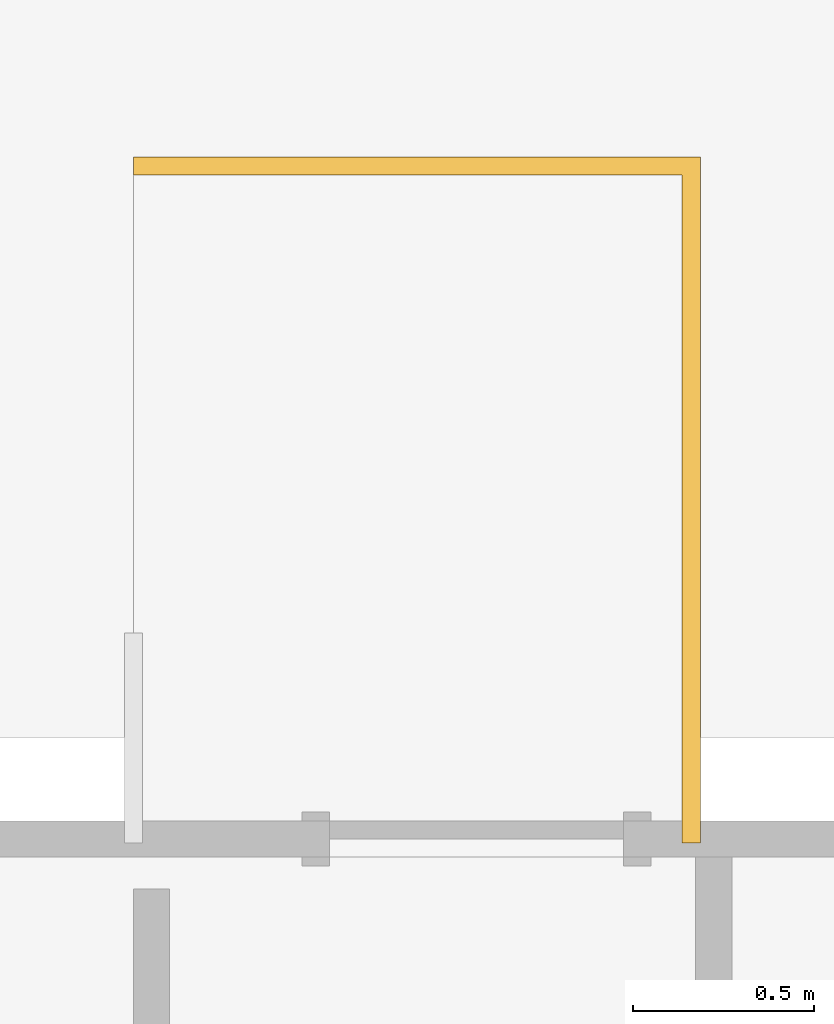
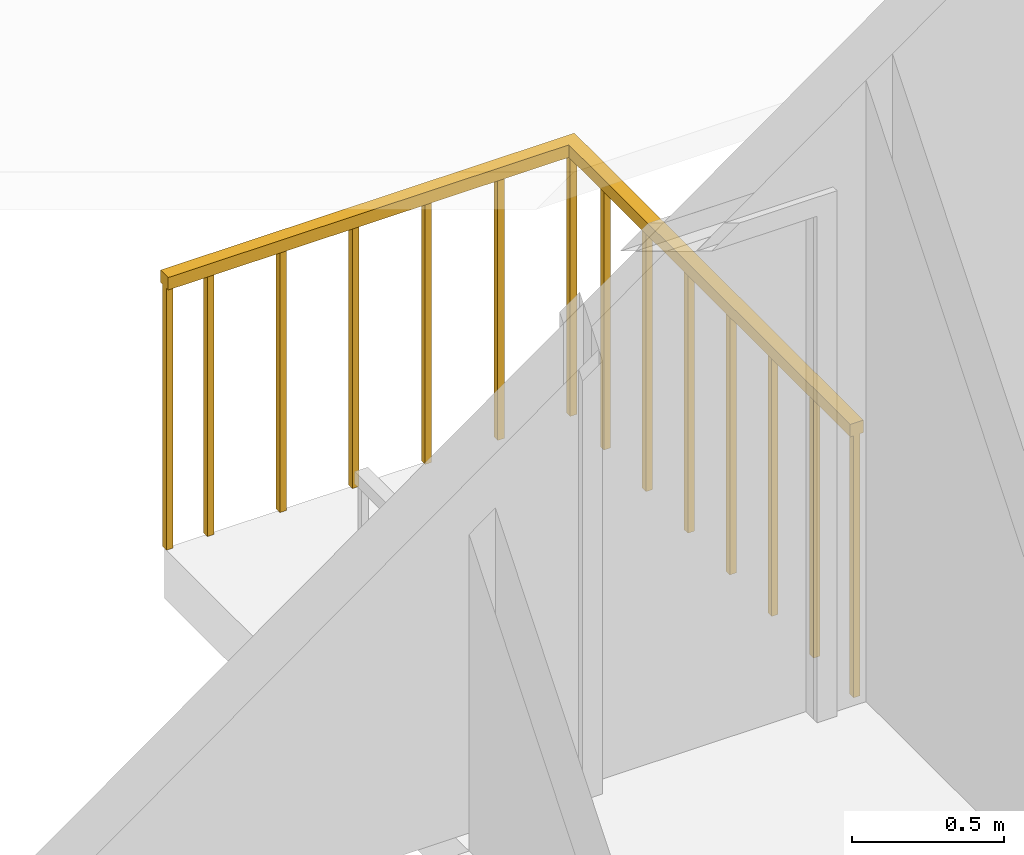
# One storey, part 5 of 6: 1 railing.
"""IFC2X3 building model written with IfcOpenShell, lengths in millimetres."""

from ifc_helpers import new_model, entity, si_unit, converted_unit, derived_unit, direction, frame, origin, place, context, subcontext, project, spatial, faceted_brep, element, save


model = new_model("IFC2X3")

# Units and contexts
model_context = context("Model", 3, precision=0.01, world=origin(), true_north=direction((4.05803320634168e-15, -1.0)))
body_context = subcontext(model_context, "Body", "Model", "MODEL_VIEW")
ifc_project = project(units=[si_unit("LENGTHUNIT", "METRE", prefix="MILLI"), si_unit("AREAUNIT", "SQUARE_METRE"), si_unit("VOLUMEUNIT", "CUBIC_METRE"), converted_unit("PLANEANGLEUNIT", "DEGREE", entity("IfcRatioMeasure", 0.0174532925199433), si_unit("PLANEANGLEUNIT", "RADIAN"), dimensions=[0, 0, 0, 0, 0, 0, 0]), si_unit("MASSUNIT", "GRAM", prefix="KILO"), derived_unit("MASSDENSITYUNIT", [(si_unit("MASSUNIT", "GRAM", prefix="KILO"), 1), (si_unit("LENGTHUNIT", "METRE"), -3)]), si_unit("TIMEUNIT", "SECOND"), si_unit("FREQUENCYUNIT", "HERTZ"), si_unit("THERMODYNAMICTEMPERATUREUNIT", "DEGREE_CELSIUS"), derived_unit("THERMALTRANSMITTANCEUNIT", [(si_unit("MASSUNIT", "GRAM", prefix="KILO"), 1), (si_unit("THERMODYNAMICTEMPERATUREUNIT", "KELVIN"), -1), (si_unit("TIMEUNIT", "SECOND"), -3)]), derived_unit("VOLUMETRICFLOWRATEUNIT", [(si_unit("LENGTHUNIT", "METRE"), 3), (si_unit("TIMEUNIT", "SECOND"), -1)]), si_unit("ELECTRICCURRENTUNIT", "AMPERE"), si_unit("ELECTRICVOLTAGEUNIT", "VOLT"), si_unit("POWERUNIT", "WATT"), si_unit("FORCEUNIT", "NEWTON", prefix="KILO"), si_unit("ILLUMINANCEUNIT", "LUX"), si_unit("LUMINOUSFLUXUNIT", "LUMEN"), si_unit("LUMINOUSINTENSITYUNIT", "CANDELA"), derived_unit("USERDEFINED", [(si_unit("MASSUNIT", "GRAM", prefix="KILO"), -1), (si_unit("LENGTHUNIT", "METRE"), -2), (si_unit("TIMEUNIT", "SECOND"), 3), (si_unit("LUMINOUSFLUXUNIT", "LUMEN"), 1)]), derived_unit("LINEARVELOCITYUNIT", [(si_unit("LENGTHUNIT", "METRE"), 1), (si_unit("TIMEUNIT", "SECOND"), -1)]), si_unit("PRESSUREUNIT", "PASCAL"), derived_unit("USERDEFINED", [(si_unit("LENGTHUNIT", "METRE"), -2), (si_unit("MASSUNIT", "GRAM", prefix="KILO"), 1), (si_unit("TIMEUNIT", "SECOND"), -2)])], contexts=[model_context])

# Site, building, storey
site_placement = place(None, frame((927466.849349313, 583801.882853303, 0.0), z_axis=(0.0, 0.0, 1.0), x_axis=(-1.0, 0.0, 0.0)))
site = spatial("IfcSite", under=ifc_project, at=site_placement, Name="Surface", CompositionType="ELEMENT")
building_placement = place(site_placement, origin())
building = spatial("IfcBuilding", under=site, at=building_placement, CompositionType="ELEMENT")
storey_placement = place(building_placement, frame((0.0, 0.0, 51027.1066036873)))
storey = spatial("IfcBuildingStorey", under=building, at=storey_placement, Name="2nd floor", CompositionType="ELEMENT", Elevation=51027.1066036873)

# Railing
railing_placement = place(storey_placement, frame((-92687.4288686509, 10072.1010509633, 0.0)))
element("IfcRailing", 1, at=railing_placement, inside=storey, Name="Railing:1100mm", ObjectType="Railing:1100mm", PredefinedType="NOTDEFINED", context=body_context, shape_type="Brep", body=[
    faceted_brep([(1387.50000000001, 37.5000000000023, 1050.0), (1387.50000000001, 37.5000000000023, 0.0), (1387.50000000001, 12.5000000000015, 0.0), (1387.50000000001, 12.5000000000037, 1050.0), (1412.5, 12.5000000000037, 0.0), (1412.50000000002, 12.5000000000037, 1050.0), (1412.50000000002, 37.5000000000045, 0.0), (1412.50000000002, 37.5000000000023, 1050.0)], [[[0, 1, 2, 3]], [[3, 2, 4, 5]], [[5, 4, 6, 7]], [[1, 0, 7, 6]], [[0, 3, 5, 7]], [[2, 1, 6, 4]]]),
    faceted_brep([(1112.5, 37.5000000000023, 1050.0), (1112.5, 37.5000000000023, 0.0), (1112.5, 12.5000000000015, 0.0), (1112.5, 12.5000000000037, 1050.0), (1137.49999999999, 12.5000000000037, 0.0), (1137.50000000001, 12.5000000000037, 1050.0), (1137.50000000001, 37.5000000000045, 0.0), (1137.50000000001, 37.5000000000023, 1050.0)], [[[0, 1, 2, 3]], [[3, 2, 4, 5]], [[5, 4, 6, 7]], [[1, 0, 7, 6]], [[0, 3, 5, 7]], [[2, 1, 6, 4]]]),
    faceted_brep([(837.500000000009, 37.5000000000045, 1050.0), (837.500000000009, 37.5000000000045, 0.0), (837.500000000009, 12.5000000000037, 0.0), (837.500000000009, 12.5000000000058, 1050.0), (862.500000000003, 12.5000000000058, 0.0), (862.50000000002, 12.5000000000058, 1050.0), (862.50000000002, 37.5000000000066, 0.0), (862.50000000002, 37.5000000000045, 1050.0)], [[[0, 1, 2, 3]], [[3, 2, 4, 5]], [[5, 4, 6, 7]], [[1, 0, 7, 6]], [[0, 3, 5, 7]], [[2, 1, 6, 4]]]),
    faceted_brep([(562.500000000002, 37.5000000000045, 1050.0), (562.500000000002, 37.5000000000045, 0.0), (562.500000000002, 12.5000000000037, 0.0), (562.500000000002, 12.5000000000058, 1050.0), (587.499999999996, 12.5000000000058, 0.0), (587.500000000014, 12.5000000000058, 1050.0), (587.500000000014, 37.5000000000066, 0.0), (587.500000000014, 37.5000000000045, 1050.0)], [[[0, 1, 2, 3]], [[3, 2, 4, 5]], [[5, 4, 6, 7]], [[1, 0, 7, 6]], [[0, 3, 5, 7]], [[2, 1, 6, 4]]]),
    faceted_brep([(287.500000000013, 37.5000000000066, 1050.0), (287.500000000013, 37.5000000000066, 0.0), (287.500000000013, 12.5000000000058, 0.0), (287.500000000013, 12.500000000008, 1050.0), (312.500000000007, 12.500000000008, 0.0), (312.500000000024, 12.500000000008, 1050.0), (312.500000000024, 37.5000000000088, 0.0), (312.500000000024, 37.5000000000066, 1050.0)], [[[0, 1, 2, 3]], [[3, 2, 4, 5]], [[5, 4, 6, 7]], [[1, 0, 7, 6]], [[0, 3, 5, 7]], [[2, 1, 6, 4]]]),
    faceted_brep([(37.5000000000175, 259.676700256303, 1050.0), (37.5000000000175, 259.676700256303, 0.0), (12.5000000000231, 259.676700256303, 0.0), (12.5000000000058, 259.676700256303, 1050.0), (12.5000000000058, 234.676700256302, 0.0), (12.5000000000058, 234.676700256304, 1050.0), (37.5000000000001, 234.676700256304, 0.0), (37.5000000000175, 234.676700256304, 1050.0)], [[[0, 1, 2, 3]], [[3, 2, 4, 5]], [[5, 4, 6, 7]], [[1, 0, 7, 6]], [[0, 3, 5, 7]], [[2, 1, 6, 4]]]),
    faceted_brep([(37.5000000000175, 534.676700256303, 1050.0), (37.5000000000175, 534.676700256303, 0.0), (12.5000000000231, 534.676700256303, 0.0), (12.5000000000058, 534.676700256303, 1050.0), (12.5000000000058, 509.676700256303, 0.0), (12.5000000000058, 509.676700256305, 1050.0), (37.5000000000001, 509.676700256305, 0.0), (37.5000000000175, 509.676700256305, 1050.0)], [[[0, 1, 2, 3]], [[3, 2, 4, 5]], [[5, 4, 6, 7]], [[1, 0, 7, 6]], [[0, 3, 5, 7]], [[2, 1, 6, 4]]]),
    faceted_brep([(37.5000000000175, 809.676700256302, 1050.0), (37.5000000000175, 809.676700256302, 0.0), (12.5000000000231, 809.676700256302, 0.0), (12.5000000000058, 809.676700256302, 1050.0), (12.5000000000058, 784.676700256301, 0.0), (12.5000000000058, 784.676700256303, 1050.0), (37.5000000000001, 784.676700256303, 0.0), (37.5000000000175, 784.676700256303, 1050.0)], [[[0, 1, 2, 3]], [[3, 2, 4, 5]], [[5, 4, 6, 7]], [[1, 0, 7, 6]], [[0, 3, 5, 7]], [[2, 1, 6, 4]]]),
    faceted_brep([(37.5000000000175, 1084.6767002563, 1050.0), (37.5000000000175, 1084.6767002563, 0.0), (12.5000000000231, 1084.6767002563, 0.0), (12.5000000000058, 1084.6767002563, 1050.0), (12.5000000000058, 1059.6767002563, 0.0), (12.5000000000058, 1059.6767002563, 1050.0), (37.5000000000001, 1059.6767002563, 0.0), (37.5000000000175, 1059.6767002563, 1050.0)], [[[0, 1, 2, 3]], [[3, 2, 4, 5]], [[5, 4, 6, 7]], [[1, 0, 7, 6]], [[0, 3, 5, 7]], [[2, 1, 6, 4]]]),
    faceted_brep([(37.5000000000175, 1359.6767002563, 1050.0), (37.5000000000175, 1359.6767002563, 0.0), (12.5000000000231, 1359.6767002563, 0.0), (12.5000000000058, 1359.6767002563, 1050.0), (12.5000000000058, 1334.6767002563, 0.0), (12.5000000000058, 1334.6767002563, 1050.0), (37.5000000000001, 1334.6767002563, 0.0), (37.5000000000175, 1334.6767002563, 1050.0)], [[[0, 1, 2, 3]], [[3, 2, 4, 5]], [[5, 4, 6, 7]], [[1, 0, 7, 6]], [[0, 3, 5, 7]], [[2, 1, 6, 4]]]),
    faceted_brep([(37.5000000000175, 1634.6767002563, 1050.0), (37.5000000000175, 1634.6767002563, 0.0), (12.5000000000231, 1634.6767002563, 0.0), (12.5000000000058, 1634.6767002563, 1050.0), (12.5000000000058, 1609.6767002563, 0.0), (12.5000000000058, 1609.6767002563, 1050.0), (37.5000000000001, 1609.6767002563, 0.0), (37.5000000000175, 1609.6767002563, 1050.0)], [[[0, 1, 2, 3]], [[3, 2, 4, 5]], [[5, 4, 6, 7]], [[1, 0, 7, 6]], [[0, 3, 5, 7]], [[2, 1, 6, 4]]]),
    faceted_brep([(37.5000000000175, 37.5000000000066, 1050.0), (37.5000000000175, 37.5000000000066, 0.0), (12.5000000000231, 37.5000000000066, 0.0), (12.5000000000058, 37.5000000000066, 1050.0), (12.5000000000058, 12.5000000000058, 0.0), (12.5000000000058, 12.500000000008, 1050.0), (37.5000000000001, 12.500000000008, 0.0), (37.5000000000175, 12.500000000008, 1050.0)], [[[0, 1, 2, 3]], [[3, 2, 4, 5]], [[5, 4, 6, 7]], [[1, 0, 7, 6]], [[0, 3, 5, 7]], [[2, 1, 6, 4]]]),
    faceted_brep([(1543.38903589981, 37.5000000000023, 1050.0), (1543.38903589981, 37.5000000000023, 0.0), (1543.38903589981, 12.5000000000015, 0.0), (1543.38903589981, 12.5000000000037, 1050.0), (1568.38903589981, 12.5000000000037, 0.0), (1568.38903589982, 12.5000000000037, 1050.0), (1568.38903589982, 37.5000000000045, 0.0), (1568.38903589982, 37.5000000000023, 1050.0)], [[[0, 1, 2, 3]], [[3, 2, 4, 5]], [[5, 4, 6, 7]], [[1, 0, 7, 6]], [[0, 3, 5, 7]], [[2, 1, 6, 4]]]),
    faceted_brep([(37.5000000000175, 1897.1767002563, 1050.0), (37.5000000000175, 1897.1767002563, 0.0), (12.5000000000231, 1897.1767002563, 0.0), (12.5000000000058, 1897.1767002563, 1050.0), (12.5000000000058, 1872.1767002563, 0.0), (12.5000000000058, 1872.1767002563, 1050.0), (37.5000000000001, 1872.1767002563, 0.0), (37.5000000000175, 1872.1767002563, 1050.0)], [[[0, 1, 2, 3]], [[3, 2, 4, 5]], [[5, 4, 6, 7]], [[1, 0, 7, 6]], [[0, 3, 5, 7]], [[2, 1, 6, 4]]]),
    faceted_brep([(50.0, 1897.1767002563, 1100.0), (50.0, 1897.1767002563, 1050.0), (0.0, 1897.1767002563, 1050.0), (0.0, 1897.1767002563, 1100.0), (50.0, 50.0, 1100.0), (50.0, 50.0, 1050.0), (0.0, 0.0, 1050.0), (0.0, 0.0, 1100.0), (1568.38903589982, 50.0, 1100.0), (1568.38903589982, 0.0, 1100.0), (1568.38903589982, 0.0, 1050.0), (1568.38903589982, 50.0, 1050.0)], [[[0, 1, 2, 3]], [[1, 0, 4, 5]], [[2, 1, 5, 6]], [[3, 2, 6, 7]], [[0, 3, 7, 4]], [[8, 9, 10, 11]], [[5, 4, 8, 11]], [[6, 5, 11, 10]], [[7, 6, 10, 9]], [[4, 7, 9, 8]]]),
])

save(model, "model.ifc")
